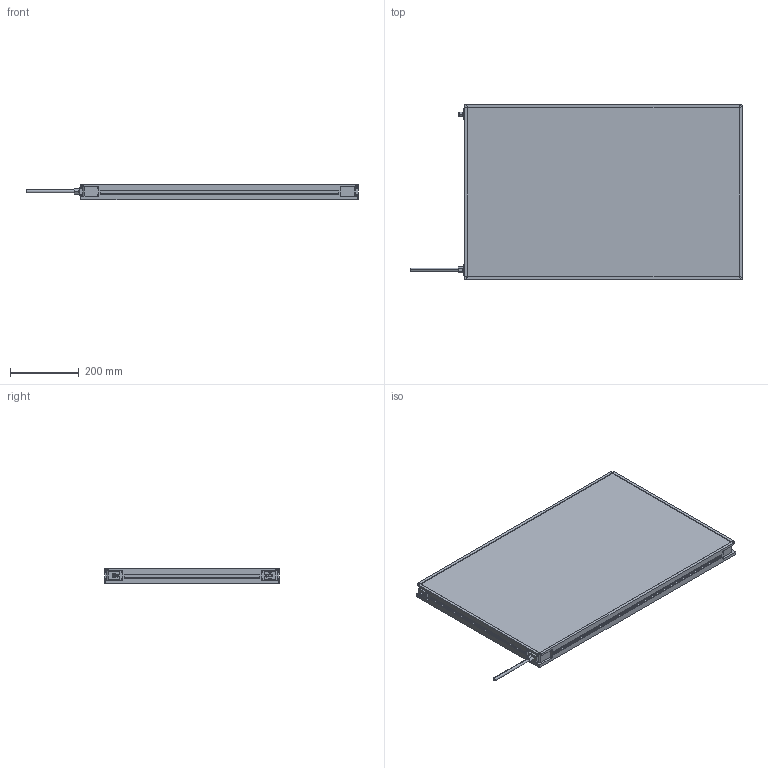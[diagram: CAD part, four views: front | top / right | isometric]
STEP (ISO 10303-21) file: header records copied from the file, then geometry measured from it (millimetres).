
FILE_DESCRIPTION (( 'STEP AP214' ), '1' );
FILE_NAME ('MBACK-xxxx-xxx-M1A2_CLIENT500x800.STEP', '2022-04-01T11:44:04', ( '' ), ( '' ), 'SwSTEP 2.0', 'SolidWorks 2020', '' );
FILE_SCHEMA (( 'AUTOMOTIVE_DESIGN' ));
Length unit declared in the file: millimetre
Products named in the file (1): MBACK-xxxx-xxx-M1A2_CLIENT500x800
Bounding box: 967.4 x 508 x 45.5 mm (x, y, z)
Volume: 17076860.9 mm3; surface area: 1001614.9 mm2
Topology: 1 solids, 1 shells, 470 faces, 1210 edges, 804 vertices
Faces by surface type: plane 265, cylinder 117, bspline 80, cone 8
Entity records: 18046 total; most frequent: CARTESIAN_POINT 6837, ORIENTED_EDGE 2420, DIRECTION 2082, EDGE_CURVE 1210, VERTEX_POINT 804, VECTOR 800, LINE 800, AXIS2_PLACEMENT_3D 641
